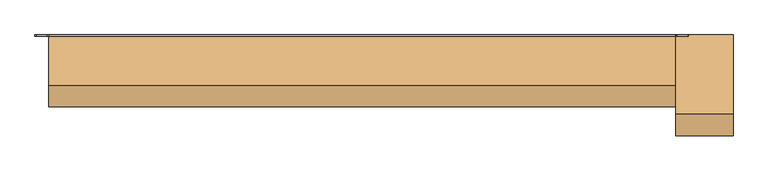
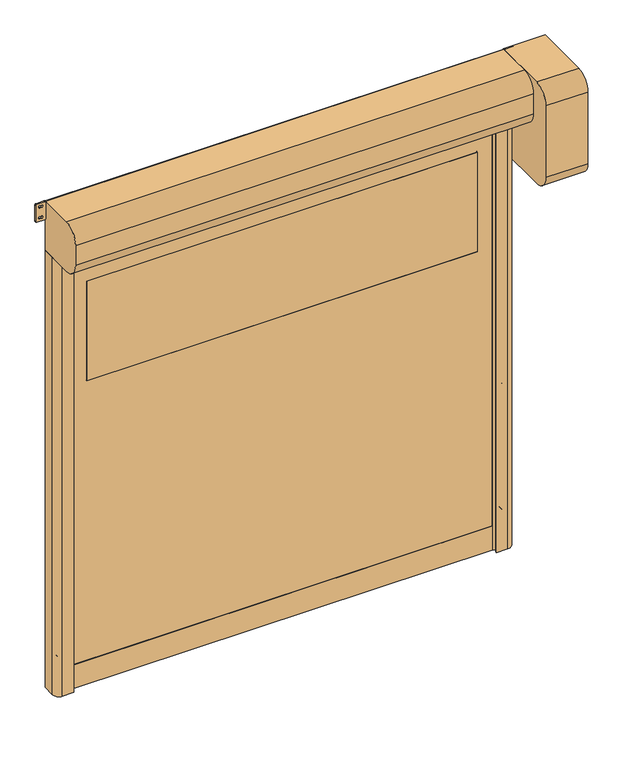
"""IFC4 building model written with IfcOpenShell, lengths in millimetres: door geometry, DO_WPB_Dynamicroll_BMP : Dynamicroll Food Inox."""

from ifc_helpers import new_model, si_unit, point, frame, frame_2d, origin, origin_with_axes, place, context, project, spatial, polyline, circle_curve, trimmed, segment, composite_curve, outline, extrude, source, transform, mapped, element, save


def door_0f29b29e(model_context):
    return source(origin(), model_context, "Body", "SweptSolid", [
        extrude(outline(composite_curve([segment(trimmed(circle_curve(frame_2d((1416.6666667, 1048.5)), 6.0), [point((1422.6666667, 1048.5))], [point((1410.6666667, 1048.5))], False, "CARTESIAN"), True, "CONTINUOUS"), segment(polyline([(1410.6666667, 1048.5), (1410.6666667, 1066.5)]), True, "CONTINUOUS"), segment(trimmed(circle_curve(frame_2d((1416.6666667, 1066.5)), 6.0), [point((1410.6666667, 1066.5))], [point((1422.6666667, 1066.5))], False, "CARTESIAN"), True, "CONTINUOUS"), segment(polyline([(1422.6666667, 1066.5), (1422.6666667, 1048.5)]), True, "CONTINUOUS")], self_intersect=False)), frame((0.0, -20.0, 0.0), z_axis=(0.0, 1.0, 0.0), x_axis=(0.0, 0.0, 1.0)), (0.0, 0.0, 1.0), 20.0),
        extrude(outline(composite_curve([segment(trimmed(circle_curve(frame_2d((783.3333333, 1048.5)), 6.0), [point((789.3333333, 1048.5))], [point((777.3333333, 1048.5))], False, "CARTESIAN"), True, "CONTINUOUS"), segment(polyline([(777.3333333, 1048.5), (777.3333333, 1066.5)]), True, "CONTINUOUS"), segment(trimmed(circle_curve(frame_2d((783.3333333, 1066.5)), 6.0), [point((777.3333333, 1066.5))], [point((789.3333333, 1066.5))], False, "CARTESIAN"), True, "CONTINUOUS"), segment(polyline([(789.3333333, 1066.5), (789.3333333, 1048.5)]), True, "CONTINUOUS")], self_intersect=False)), frame((0.0, -20.0, 0.0), z_axis=(0.0, 1.0, 0.0), x_axis=(0.0, 0.0, 1.0)), (0.0, 0.0, 1.0), 20.0),
        extrude(outline(composite_curve([segment(trimmed(circle_curve(frame_2d((2050.0, 1048.5)), 6.0), [point((2056.0, 1048.5))], [point((2044.0, 1048.5))], False, "CARTESIAN"), True, "CONTINUOUS"), segment(polyline([(2044.0, 1048.5), (2044.0, 1066.5)]), True, "CONTINUOUS"), segment(trimmed(circle_curve(frame_2d((2050.0, 1066.5)), 6.0), [point((2044.0, 1066.5))], [point((2056.0, 1066.5))], False, "CARTESIAN"), True, "CONTINUOUS"), segment(polyline([(2056.0, 1066.5), (2056.0, 1048.5)]), True, "CONTINUOUS")], self_intersect=False)), frame((0.0, -20.0, 0.0), z_axis=(0.0, 1.0, 0.0), x_axis=(0.0, 0.0, 1.0)), (0.0, 0.0, 1.0), 20.0),
        extrude(outline(composite_curve([segment(trimmed(circle_curve(frame_2d((150.0, 1048.5)), 6.0), [point((156.0, 1048.5))], [point((144.0, 1048.5))], False, "CARTESIAN"), True, "CONTINUOUS"), segment(polyline([(144.0, 1048.5), (144.0, 1066.5)]), True, "CONTINUOUS"), segment(trimmed(circle_curve(frame_2d((150.0, 1066.5)), 6.0), [point((144.0, 1066.5))], [point((156.0, 1066.5))], False, "CARTESIAN"), True, "CONTINUOUS"), segment(polyline([(156.0, 1066.5), (156.0, 1048.5)]), True, "CONTINUOUS")], self_intersect=False)), frame((0.0, -20.0, 0.0), z_axis=(0.0, 1.0, 0.0), x_axis=(0.0, 0.0, 1.0)), (0.0, 0.0, 1.0), 20.0),
        extrude(outline(composite_curve([segment(polyline([(1422.6666667, -1048.5), (1422.6666667, -1066.5)]), True, "CONTINUOUS"), segment(trimmed(circle_curve(frame_2d((1416.6666667, -1066.5)), 6.0), [point((1422.6666667, -1066.5))], [point((1410.6666667, -1066.5))], False, "CARTESIAN"), True, "CONTINUOUS"), segment(polyline([(1410.6666667, -1066.5), (1410.6666667, -1048.5)]), True, "CONTINUOUS"), segment(trimmed(circle_curve(frame_2d((1416.6666667, -1048.5)), 6.0), [point((1410.6666667, -1048.5))], [point((1422.6666667, -1048.5))], False, "CARTESIAN"), True, "CONTINUOUS")], self_intersect=False)), frame((0.0, -20.0, 0.0), z_axis=(0.0, 1.0, 0.0), x_axis=(0.0, 0.0, 1.0)), (0.0, 0.0, 1.0), 20.0),
        extrude(outline(composite_curve([segment(polyline([(789.3333333, -1048.5), (789.3333333, -1066.5)]), True, "CONTINUOUS"), segment(trimmed(circle_curve(frame_2d((783.3333333, -1066.5)), 6.0), [point((789.3333333, -1066.5))], [point((777.3333333, -1066.5))], False, "CARTESIAN"), True, "CONTINUOUS"), segment(polyline([(777.3333333, -1066.5), (777.3333333, -1048.5)]), True, "CONTINUOUS"), segment(trimmed(circle_curve(frame_2d((783.3333333, -1048.5)), 6.0), [point((777.3333333, -1048.5))], [point((789.3333333, -1048.5))], False, "CARTESIAN"), True, "CONTINUOUS")], self_intersect=False)), frame((0.0, -20.0, 0.0), z_axis=(0.0, 1.0, 0.0), x_axis=(0.0, 0.0, 1.0)), (0.0, 0.0, 1.0), 20.0),
        extrude(outline(composite_curve([segment(polyline([(2056.0, -1048.5), (2056.0, -1066.5)]), True, "CONTINUOUS"), segment(trimmed(circle_curve(frame_2d((2050.0, -1066.5)), 6.0), [point((2056.0, -1066.5))], [point((2044.0, -1066.5))], False, "CARTESIAN"), True, "CONTINUOUS"), segment(polyline([(2044.0, -1066.5), (2044.0, -1048.5)]), True, "CONTINUOUS"), segment(trimmed(circle_curve(frame_2d((2050.0, -1048.5)), 6.0), [point((2044.0, -1048.5))], [point((2056.0, -1048.5))], False, "CARTESIAN"), True, "CONTINUOUS")], self_intersect=False)), frame((0.0, -20.0, 0.0), z_axis=(0.0, 1.0, 0.0), x_axis=(0.0, 0.0, 1.0)), (0.0, 0.0, 1.0), 20.0),
        extrude(outline(composite_curve([segment(polyline([(156.0, -1048.5), (156.0, -1066.5)]), True, "CONTINUOUS"), segment(trimmed(circle_curve(frame_2d((150.0, -1066.5)), 6.0), [point((156.0, -1066.5))], [point((144.0, -1066.5))], False, "CARTESIAN"), True, "CONTINUOUS"), segment(polyline([(144.0, -1066.5), (144.0, -1048.5)]), True, "CONTINUOUS"), segment(trimmed(circle_curve(frame_2d((150.0, -1048.5)), 6.0), [point((144.0, -1048.5))], [point((156.0, -1048.5))], False, "CARTESIAN"), True, "CONTINUOUS")], self_intersect=False)), frame((0.0, -20.0, 0.0), z_axis=(0.0, 1.0, 0.0), x_axis=(0.0, 0.0, 1.0)), (0.0, 0.0, 1.0), 20.0),
        extrude(outline(composite_curve([segment(trimmed(circle_curve(frame_2d((1526.0, 929.0)), 1.0), [point((1525.0, 929.0))], [point((1526.0, 930.0))], False, "CARTESIAN"), True, "CONTINUOUS"), segment(polyline([(1526.0, 930.0), (2024.0, 930.0)]), True, "CONTINUOUS"), segment(trimmed(circle_curve(frame_2d((2024.0, 929.0)), 1.0), [point((2024.0, 930.0))], [point((2025.0, 929.0))], False, "CARTESIAN"), True, "CONTINUOUS"), segment(polyline([(2025.0, 929.0), (2025.0, -929.0)]), True, "CONTINUOUS"), segment(trimmed(circle_curve(frame_2d((2024.0, -929.0)), 1.0), [point((2025.0, -929.0))], [point((2024.0, -930.0))], False, "CARTESIAN"), True, "CONTINUOUS"), segment(polyline([(2024.0, -930.0), (1526.0, -930.0)]), True, "CONTINUOUS"), segment(trimmed(circle_curve(frame_2d((1526.0, -929.0)), 1.0), [point((1526.0, -930.0))], [point((1525.0, -929.0))], False, "CARTESIAN"), True, "CONTINUOUS"), segment(polyline([(1525.0, -929.0), (1525.0, 929.0)]), True, "CONTINUOUS")], self_intersect=False)), frame((0.0, -63.5, 0.0), z_axis=(0.0, 1.0, 0.0), x_axis=(0.0, 0.0, 1.0)), (0.0, 0.0, 1.0), 7.0),
        extrude(outline(polyline([(120.0, -1012.0), (120.0, 1012.0), (2325.0, 1012.0), (2325.0, -1012.0), (120.0, -1012.0)]), holes=[composite_curve([segment(trimmed(circle_curve(frame_2d((1526.0, 929.0)), 1.0), [point((1526.0, 930.0))], [point((1525.0, 929.0))], True, "CARTESIAN"), True, "CONTINUOUS"), segment(polyline([(1525.0, 929.0), (1525.0, -929.0)]), True, "CONTINUOUS"), segment(trimmed(circle_curve(frame_2d((1526.0, -929.0)), 1.0), [point((1525.0, -929.0))], [point((1526.0, -930.0))], True, "CARTESIAN"), True, "CONTINUOUS"), segment(polyline([(1526.0, -930.0), (2024.0, -930.0)]), True, "CONTINUOUS"), segment(trimmed(circle_curve(frame_2d((2024.0, -929.0)), 1.0), [point((2024.0, -930.0))], [point((2025.0, -929.0))], True, "CARTESIAN"), True, "CONTINUOUS"), segment(polyline([(2025.0, -929.0), (2025.0, 929.0)]), True, "CONTINUOUS"), segment(trimmed(circle_curve(frame_2d((2024.0, 929.0)), 1.0), [point((2025.0, 929.0))], [point((2024.0, 930.0))], True, "CARTESIAN"), True, "CONTINUOUS"), segment(polyline([(2024.0, 930.0), (1526.0, 930.0)]), True, "CONTINUOUS")], self_intersect=False)]), frame((0.0, -63.5, 0.0), z_axis=(0.0, 1.0, 0.0), x_axis=(0.0, 0.0, 1.0)), (0.0, 0.0, 1.0), 7.0),
        extrude(outline(polyline([(-1012.0, -54.5), (1012.0, -54.5), (1012.0, -65.5), (-1012.0, -65.5), (-1012.0, -54.5)])), origin_with_axes(), (0.0, 0.0, 1.0), 120.0),
        extrude(outline(composite_curve([segment(trimmed(circle_curve(frame_2d((2363.75, 1095.75)), 5.75), [point((2363.75, 1090.0))], [point((2358.0, 1095.75))], False, "CARTESIAN"), True, "CONTINUOUS"), segment(polyline([(2358.0, 1095.75), (2358.0, 1133.25)]), True, "CONTINUOUS"), segment(trimmed(circle_curve(frame_2d((2363.75, 1133.25)), 5.75), [point((2358.0, 1133.25))], [point((2363.75, 1139.0))], False, "CARTESIAN"), True, "CONTINUOUS"), segment(polyline([(2363.75, 1139.0), (2444.25, 1139.0)]), True, "CONTINUOUS"), segment(trimmed(circle_curve(frame_2d((2444.25, 1133.25)), 5.75), [point((2444.25, 1139.0))], [point((2450.0, 1133.25))], False, "CARTESIAN"), True, "CONTINUOUS"), segment(polyline([(2450.0, 1133.25), (2450.0, 1095.75)]), True, "CONTINUOUS"), segment(trimmed(circle_curve(frame_2d((2444.25, 1095.75)), 5.75), [point((2450.0, 1095.75))], [point((2444.25, 1090.0))], False, "CARTESIAN"), True, "CONTINUOUS"), segment(polyline([(2444.25, 1090.0), (2363.75, 1090.0)]), True, "CONTINUOUS")], self_intersect=False), holes=[composite_curve([segment(trimmed(circle_curve(frame_2d((2431.5, 1118.75)), 5.75), [point((2437.25, 1118.75))], [point((2425.75, 1118.75))], True, "CARTESIAN"), True, "CONTINUOUS"), segment(polyline([(2425.75, 1118.75), (2425.75, 1110.25)]), True, "CONTINUOUS"), segment(trimmed(circle_curve(frame_2d((2431.5, 1110.25)), 5.75), [point((2425.75, 1110.25))], [point((2437.25, 1110.25))], True, "CARTESIAN"), True, "CONTINUOUS"), segment(polyline([(2437.25, 1110.25), (2437.25, 1118.75)]), True, "CONTINUOUS")], self_intersect=False), composite_curve([segment(trimmed(circle_curve(frame_2d((2376.5, 1118.75)), 5.75), [point((2382.25, 1118.75))], [point((2370.75, 1118.75))], True, "CARTESIAN"), True, "CONTINUOUS"), segment(polyline([(2370.75, 1118.75), (2370.75, 1110.25)]), True, "CONTINUOUS"), segment(trimmed(circle_curve(frame_2d((2376.5, 1110.25)), 5.75), [point((2370.75, 1110.25))], [point((2382.25, 1110.25))], True, "CARTESIAN"), True, "CONTINUOUS"), segment(polyline([(2382.25, 1110.25), (2382.25, 1118.75)]), True, "CONTINUOUS")], self_intersect=False)]), frame((0.0, -5.0, 0.0), z_axis=(0.0, 1.0, 0.0), x_axis=(0.0, 0.0, 1.0)), (0.0, 0.0, 1.0), 5.0),
        extrude(outline(composite_curve([segment(trimmed(circle_curve(frame_2d((2363.75, -1133.25)), 5.75), [point((2363.75, -1139.0))], [point((2358.0, -1133.25))], False, "CARTESIAN"), True, "CONTINUOUS"), segment(polyline([(2358.0, -1133.25), (2358.0, -1095.75)]), True, "CONTINUOUS"), segment(trimmed(circle_curve(frame_2d((2363.75, -1095.75)), 5.75), [point((2358.0, -1095.75))], [point((2363.75, -1090.0))], False, "CARTESIAN"), True, "CONTINUOUS"), segment(polyline([(2363.75, -1090.0), (2444.25, -1090.0)]), True, "CONTINUOUS"), segment(trimmed(circle_curve(frame_2d((2444.25, -1095.75)), 5.75), [point((2444.25, -1090.0))], [point((2450.0, -1095.75))], False, "CARTESIAN"), True, "CONTINUOUS"), segment(polyline([(2450.0, -1095.75), (2450.0, -1133.25)]), True, "CONTINUOUS"), segment(trimmed(circle_curve(frame_2d((2444.25, -1133.25)), 5.75), [point((2450.0, -1133.25))], [point((2444.25, -1139.0))], False, "CARTESIAN"), True, "CONTINUOUS"), segment(polyline([(2444.25, -1139.0), (2363.75, -1139.0)]), True, "CONTINUOUS")], self_intersect=False), holes=[composite_curve([segment(trimmed(circle_curve(frame_2d((2431.5, -1110.25)), 5.75), [point((2437.25, -1110.25))], [point((2425.75, -1110.25))], True, "CARTESIAN"), True, "CONTINUOUS"), segment(polyline([(2425.75, -1110.25), (2425.75, -1118.75)]), True, "CONTINUOUS"), segment(trimmed(circle_curve(frame_2d((2431.5, -1118.75)), 5.75), [point((2425.75, -1118.75))], [point((2437.25, -1118.75))], True, "CARTESIAN"), True, "CONTINUOUS"), segment(polyline([(2437.25, -1118.75), (2437.25, -1110.25)]), True, "CONTINUOUS")], self_intersect=False), composite_curve([segment(trimmed(circle_curve(frame_2d((2376.5, -1110.25)), 5.75), [point((2382.25, -1110.25))], [point((2370.75, -1110.25))], True, "CARTESIAN"), True, "CONTINUOUS"), segment(polyline([(2370.75, -1110.25), (2370.75, -1118.75)]), True, "CONTINUOUS"), segment(trimmed(circle_curve(frame_2d((2376.5, -1118.75)), 5.75), [point((2370.75, -1118.75))], [point((2382.25, -1118.75))], True, "CARTESIAN"), True, "CONTINUOUS"), segment(polyline([(2382.25, -1118.75), (2382.25, -1110.25)]), True, "CONTINUOUS")], self_intersect=False)]), frame((0.0, -5.0, 0.0), z_axis=(0.0, 1.0, 0.0), x_axis=(0.0, 0.0, 1.0)), (0.0, 0.0, 1.0), 5.0),
        extrude(outline(composite_curve([segment(polyline([(-1090.0, 0.0), (-1015.0, 0.0), (-1015.0, -44.2857143), (-1035.0, -50.0), (-1000.0, -50.0), (-1000.0, -56.5), (-1020.0, -56.5), (-1020.0, -63.5), (-1000.0, -63.5), (-1000.0, -70.0), (-1035.0, -70.0), (-1035.0, -85.0), (-1005.0, -85.0), (-1005.0, -90.0), (-1060.0, -90.0)]), True, "CONTINUOUS"), segment(trimmed(circle_curve(frame_2d((-1060.0, -60.0)), 30.0), [point((-1060.0, -90.0))], [point((-1090.0, -60.0))], False, "CARTESIAN"), True, "CONTINUOUS"), segment(polyline([(-1090.0, -60.0), (-1090.0, 0.0)]), True, "CONTINUOUS")], self_intersect=False)), origin_with_axes(), (0.0, 0.0, 1.0), 2200.0),
        extrude(outline(composite_curve([segment(polyline([(1090.0, 0.0), (1090.0, -60.0)]), True, "CONTINUOUS"), segment(trimmed(circle_curve(frame_2d((1060.0, -60.0)), 30.0), [point((1090.0, -60.0))], [point((1060.0, -90.0))], False, "CARTESIAN"), True, "CONTINUOUS"), segment(polyline([(1060.0, -90.0), (1005.0, -90.0), (1005.0, -85.0), (1035.0, -85.0), (1035.0, -70.0), (1000.0, -70.0), (1000.0, -63.5), (1020.0, -63.5), (1020.0, -56.5), (1000.0, -56.5), (1000.0, -50.0), (1035.0, -50.0), (1015.0, -44.2857143), (1015.0, 0.0), (1090.0, 0.0)]), True, "CONTINUOUS")], self_intersect=False)), origin_with_axes(), (0.0, 0.0, 1.0), 2200.0),
        extrude(outline(composite_curve([segment(polyline([(0.0, 2450.0), (0.0, 1940.0), (-275.0, 1940.0)]), True, "CONTINUOUS"), segment(trimmed(circle_curve(frame_2d((-275.0, 2015.0)), 75.0), [point((-275.0, 1940.0))], [point((-350.0, 2015.0))], False, "CARTESIAN"), True, "CONTINUOUS"), segment(polyline([(-350.0, 2015.0), (-350.0, 2375.0)]), True, "CONTINUOUS"), segment(trimmed(circle_curve(frame_2d((-275.0, 2375.0)), 75.0), [point((-350.0, 2375.0))], [point((-275.0, 2450.0))], False, "CARTESIAN"), True, "CONTINUOUS"), segment(polyline([(-275.0, 2450.0), (0.0, 2450.0)]), True, "CONTINUOUS")], self_intersect=False)), frame((1090.0, 0.0, 0.0), z_axis=(1.0, 0.0, 0.0), x_axis=(0.0, 1.0, 0.0)), (0.0, 0.0, 1.0), 200.0),
        extrude(outline(composite_curve([segment(trimmed(circle_curve(frame_2d((-5.0, 2205.0)), 5.0), [point((0.0, 2205.0))], [point((-5.0, 2200.0))], False, "CARTESIAN"), True, "CONTINUOUS"), segment(polyline([(-5.0, 2200.0), (-175.0, 2200.0)]), True, "CONTINUOUS"), segment(trimmed(circle_curve(frame_2d((-175.0, 2275.0)), 75.0), [point((-175.0, 2200.0))], [point((-250.0, 2275.0))], False, "CARTESIAN"), True, "CONTINUOUS"), segment(polyline([(-250.0, 2275.0), (-250.0, 2375.0)]), True, "CONTINUOUS"), segment(trimmed(circle_curve(frame_2d((-175.0, 2375.0)), 75.0), [point((-250.0, 2375.0))], [point((-175.0, 2450.0))], False, "CARTESIAN"), True, "CONTINUOUS"), segment(polyline([(-175.0, 2450.0), (-5.0, 2450.0)]), True, "CONTINUOUS"), segment(trimmed(circle_curve(frame_2d((-5.0, 2445.0)), 5.0), [point((-5.0, 2450.0))], [point((0.0, 2445.0))], False, "CARTESIAN"), True, "CONTINUOUS"), segment(polyline([(0.0, 2445.0), (0.0, 2205.0)]), True, "CONTINUOUS")], self_intersect=False)), frame((-1090.0, 0.0, 0.0), z_axis=(1.0, 0.0, 0.0), x_axis=(0.0, 1.0, 0.0)), (0.0, 0.0, 1.0), 2180.0),
    ])


if __name__ == "__main__":
    model = new_model("IFC4")
    model_context = context("Model", 3, world=origin())
    ifc_project = project(units=[si_unit("LENGTHUNIT", "METRE", prefix="MILLI")], contexts=[model_context])
    site = spatial("IfcSite", under=ifc_project)
    building = spatial("IfcBuilding", under=site)
    placement = place(None, origin())
    door_shape = door_0f29b29e(model_context)
    element("IfcDoor", 1, ObjectType="DO_WPB_Dynamicroll_BMP : Dynamicroll Food Inox", at=placement, inside=building, context=model_context, shape_type="MappedRepresentation", body=[
        mapped(door_shape, transform((0.0, 0.0, 0.0), x_axis=(1.0, 0.0, 0.0), y_axis=(0.0, 1.0, 0.0), z_axis=(0.0, 0.0, 1.0))),
    ])
    save(model, "model.ifc")
